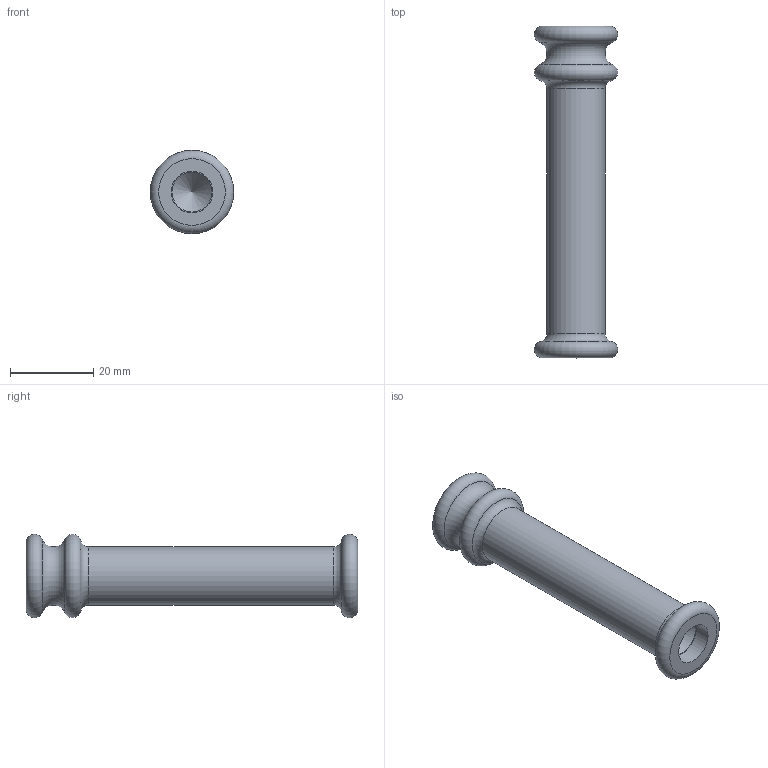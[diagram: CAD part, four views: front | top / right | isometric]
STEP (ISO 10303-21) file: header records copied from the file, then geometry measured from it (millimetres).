
FILE_DESCRIPTION(('FreeCAD Model'),'2;1');
FILE_NAME('Open CASCADE Shape Model','2025-11-29T15:58:21',( 'Benjamin W.'),('Chronic Mechatronic'), 'Open CASCADE STEP processor 7.8','FreeCAD','Unknown');
FILE_SCHEMA(('AUTOMOTIVE_DESIGN { 1 0 10303 214 1 1 1 1 }'));
Length unit declared in the file: millimetre
Products named in the file (1): roller
Bounding box: 20 x 79.6 x 20 mm (x, y, z)
Volume: 13173.8 mm3; surface area: 4836.5 mm2
Topology: 1 solids, 1 shells, 15 faces, 27 edges, 16 vertices
Faces by surface type: torus 6, plane 4, cylinder 3, cone 2
Full cylindrical faces by diameter (mm): 10 x2, 14 x1
Entity records: 385 total; most frequent: DIRECTION 77, CARTESIAN_POINT 57, ORIENTED_EDGE 50, AXIS2_PLACEMENT_3D 36, EDGE_CURVE 25, CIRCLE 20, FACE_BOUND 19, EDGE_LOOP 19
